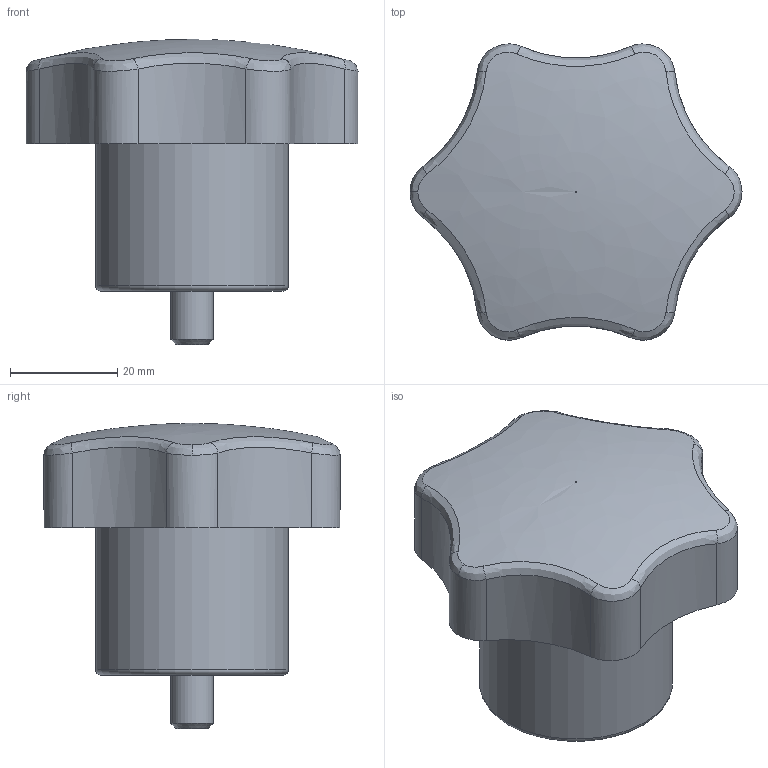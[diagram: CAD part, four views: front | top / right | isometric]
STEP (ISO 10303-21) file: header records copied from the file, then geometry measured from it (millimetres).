
FILE_DESCRIPTION( ('This file contains a STEP AP42 implementation' ,'as created by ZW3D STEP Interface translator.') ,'2;1' );
FILE_NAME( 'Rekojesc gwiazdowa z trzpieniem gwintowanym 80.stp' ,'26 331. 8 145', (''), ('ZWCAD Software Co.'), 'Version 1.0', 'ZW3D to STEP translator', '' );
FILE_SCHEMA(('AP242_MANAGED_MODEL_BASED_3D_ENGINEERING_MIM_LF { 1 0 10303 442 1 1 4 }'));
Length unit declared in the file: millimetre
Products named in the file (1): 0
Bounding box: 62 x 55.3 x 57 mm (x, y, z)
Volume: 65262.6 mm3; surface area: 14114.7 mm2
Topology: 2 solids, 2 shells, 55 faces, 121 edges, 75 vertices
Faces by surface type: plane 21, cylinder 16, bspline 14, torus 3, cone 1
Full cylindrical faces by diameter (mm): 8 x2, 36 x1, 49 x1
Entity records: 2664 total; most frequent: CARTESIAN_POINT 1502, ORIENTED_EDGE 242, DIRECTION 195, EDGE_CURVE 121, VERTEX_POINT 75, AXIS2_PLACEMENT_3D 71, EDGE_LOOP 60, FACE_OUTER_BOUND 55
